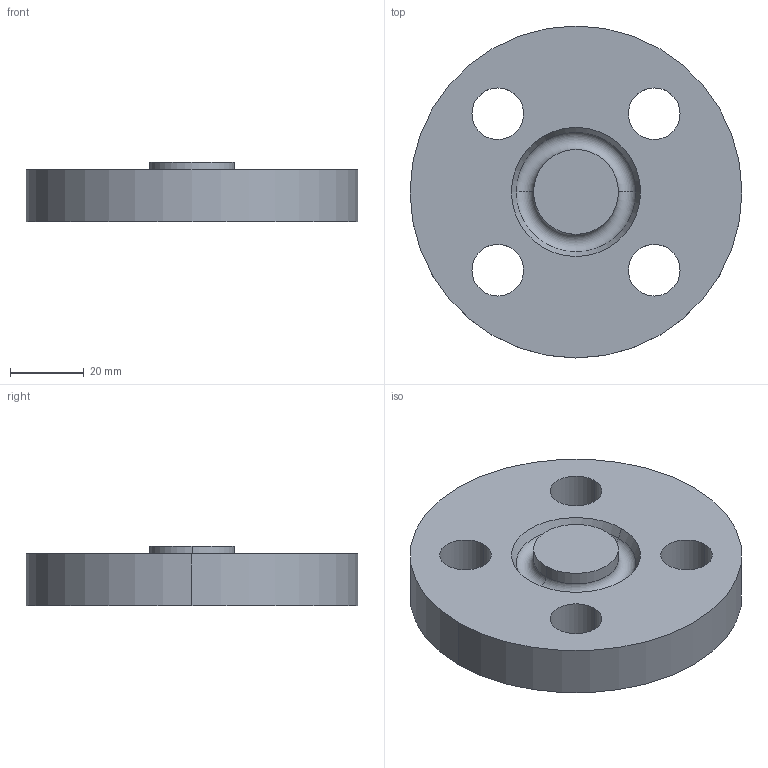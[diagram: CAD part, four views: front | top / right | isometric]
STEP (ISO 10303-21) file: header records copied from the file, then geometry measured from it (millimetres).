
FILE_DESCRIPTION (( 'STEP AP214' ), '1' );
FILE_NAME ('PN40 DN10 Type 05 - Type H Face.STEP', '2018-12-29T05:13:20', ( '' ), ( '' ), 'SwSTEP 2.0', 'SolidWorks 2019', '' );
FILE_SCHEMA (( 'AUTOMOTIVE_DESIGN' ));
Length unit declared in the file: millimetre
Products named in the file (1): PN40 DN10 Type 05 - Type H Face
Bounding box: 90 x 90 x 16 mm (x, y, z)
Volume: 79639.2 mm3; surface area: 18499.1 mm2
Topology: 1 solids, 1 shells, 19 faces, 44 edges, 28 vertices
Faces by surface type: cylinder 12, plane 3, torus 2, cone 2
Entity records: 606 total; most frequent: DIRECTION 114, CARTESIAN_POINT 92, ORIENTED_EDGE 88, AXIS2_PLACEMENT_3D 50, EDGE_CURVE 44, CIRCLE 30, VERTEX_POINT 28, EDGE_LOOP 28
